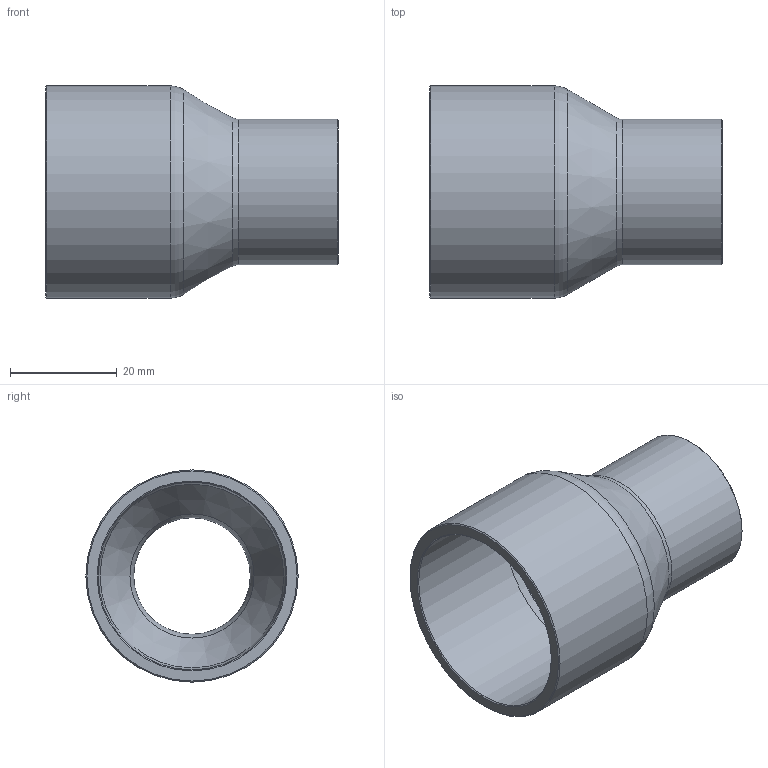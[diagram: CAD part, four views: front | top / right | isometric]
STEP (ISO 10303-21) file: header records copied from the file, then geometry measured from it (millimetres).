
FILE_DESCRIPTION((''),'2;1');
FILE_NAME('G:\SANHA-Ternat\Technik\Management\Bouwmaten + markeringen\z-maattekeningen 3D\29000s\2924013878_3d.stp','2017-08-04T11:26:35',('vdvijverd'),(''),'Autodesk Inventor 2009','Autodesk Inventor 2009','');
FILE_SCHEMA(('AUTOMOTIVE_DESIGN { 1 0 10303 214 1 1 1 1 }'));
Length unit declared in the file: millimetre
Products named in the file (1): 2924013878_3d
Bounding box: 54.8 x 39.7 x 39.7 mm (x, y, z)
Volume: 13287.3 mm3; surface area: 11608.4 mm2
Topology: 1 solids, 1 shells, 17 faces, 32 edges, 17 vertices
Faces by surface type: cone 6, cylinder 4, bspline 3, plane 2, torus 2
Full cylindrical faces by diameter (mm): 22.375 x1, 27.175 x1, 35.105 x1, 39.705 x1
Entity records: 494 total; most frequent: CARTESIAN_POINT 184, DIRECTION 64, ORIENTED_EDGE 34, EDGE_LOOP 34, AXIS2_PLACEMENT_3D 32, VERTEX_POINT 17, CIRCLE 17, EDGE_CURVE 17
